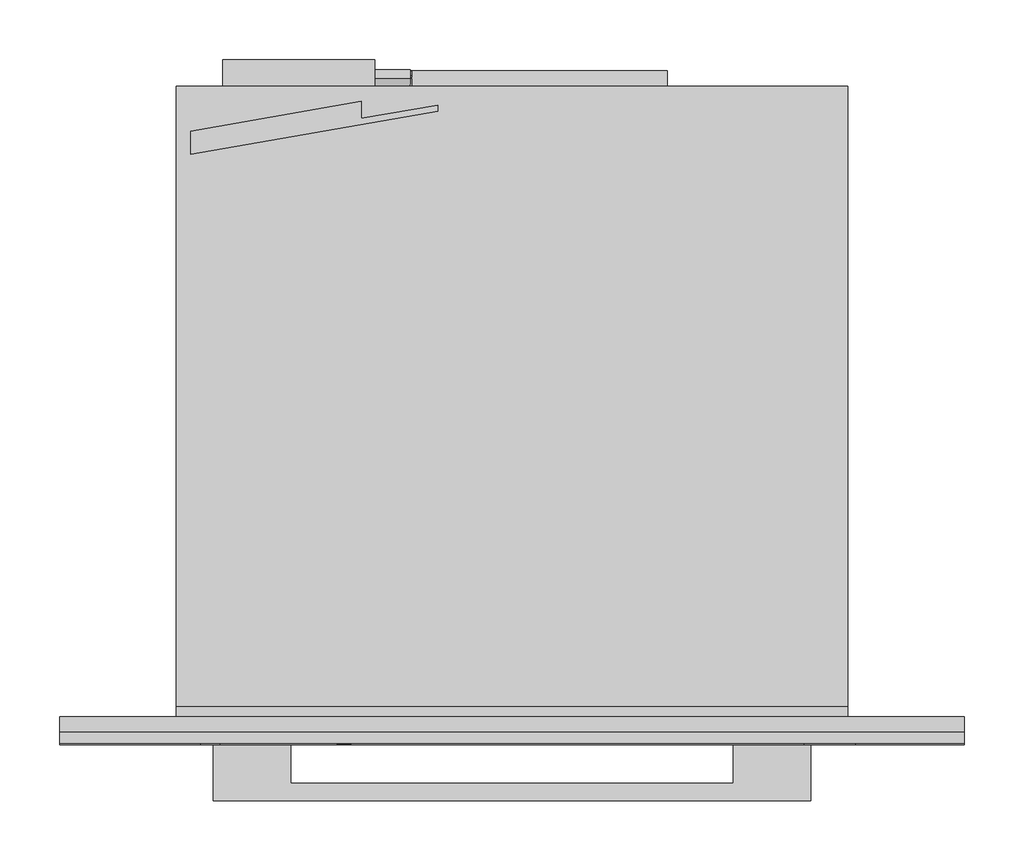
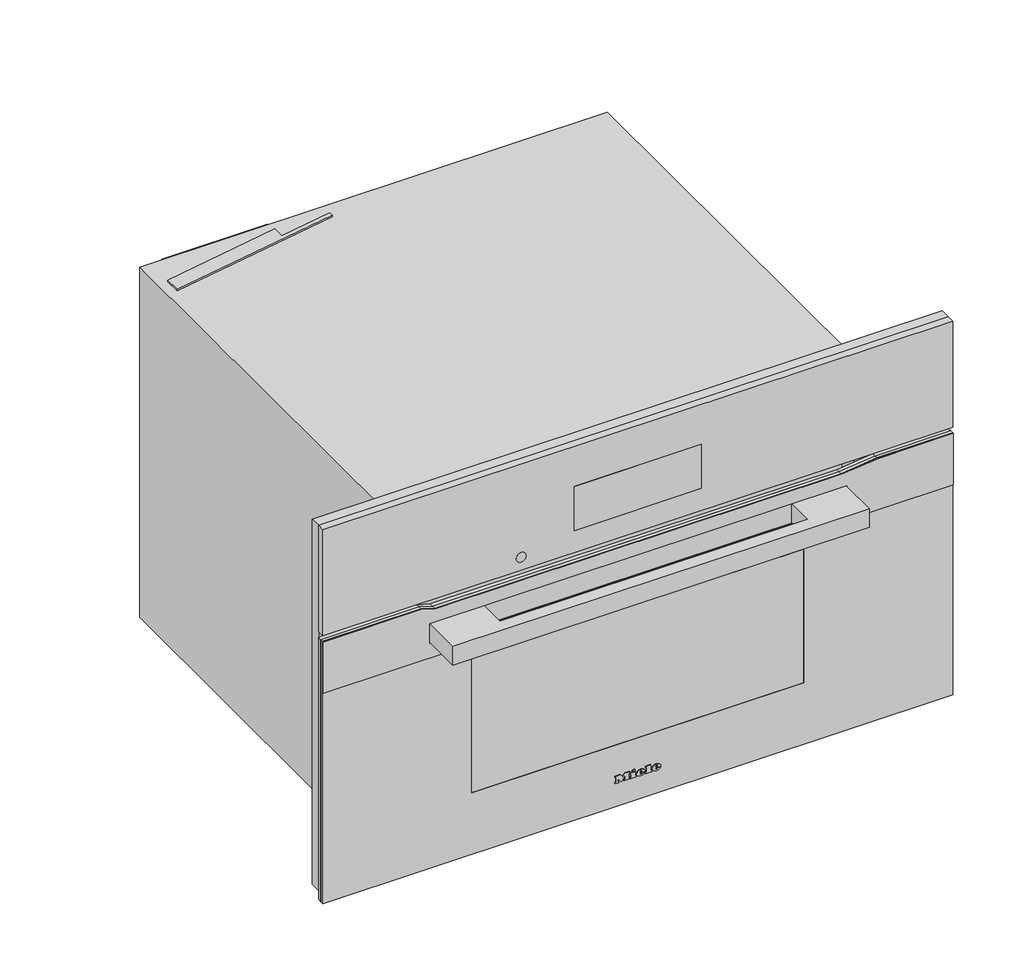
# Not in any storey: 1 proxy.
"""IFC4 building model written with IfcOpenShell, lengths in millimetres."""

import ifcopenshell
import ifcopenshell.guid

model = None  # the IFC model being written
_history = None  # IfcOwnerHistory: only IFC2X3 demands one
_inside = {}  # id of a spatial element -> (the spatial element, [elements in it])
_under = {}  # id of a project, library or spatial element -> (it, [spatial elements below it])
_declared = {}  # id of a project -> (the project, [libraries it declares])
_typed = {}  # id of a type object -> (the type object, [elements of that type])
_made_of = {}  # id of a material, layer set ... -> (it, [elements and type objects made of it])


def new_model(schema):
    """Start an empty IFC model of exactly this schema.

    Asked for "IFC4X3", IfcOpenShell would pick the latest addendum, in which some entities
    have other attributes; the version numbers below select the first issue.
    IFC2X3 requires an IfcOwnerHistory on every rooted entity: one is made here for all.
    """
    global model, _history
    if schema == "IFC4X3":
        model = ifcopenshell.file(schema_version=(4, 3, 0, 0))
    else:
        model = ifcopenshell.file(schema=schema)
    _inside.clear()
    _under.clear()
    _declared.clear()
    _typed.clear()
    _made_of.clear()
    _history = None
    if model.schema == "IFC2X3":
        org = make("IfcOrganization", Name="unknown")
        user = make(
            "IfcPersonAndOrganization",
            ThePerson=make("IfcPerson", FamilyName="unknown"),
            TheOrganization=org,
        )
        app = make(
            "IfcApplication",
            ApplicationDeveloper=org,
            Version="unknown",
            ApplicationFullName="unknown",
            ApplicationIdentifier="unknown",
        )
        _history = make(
            "IfcOwnerHistory",
            OwningUser=user,
            OwningApplication=app,
            ChangeAction="ADDED",
            CreationDate=0,
        )
    return model


def make(cls, **values):
    """One entity of the class cls with the attributes given. An attribute that is None is left unset."""
    return model.create_entity(
        cls, **{name: value for name, value in values.items() if value is not None}
    )


def rooted(cls, **values):
    """An entity with a GlobalId (a new one), such as an element, a storey or a relation."""
    return make(cls, GlobalId=ifcopenshell.guid.new(), OwnerHistory=_history, **values)


def si_unit(unit_type, name, prefix=None):
    """IfcSIUnit, for example si_unit("LENGTHUNIT", "METRE", prefix="MILLI")."""
    return make("IfcSIUnit", UnitType=unit_type, Prefix=prefix, Name=name)


def assignment(units):
    """IfcUnitAssignment: the units of a project."""
    return None if units is None else make("IfcUnitAssignment", Units=units)


def point(xyz):
    """IfcCartesianPoint."""
    return None if xyz is None else make("IfcCartesianPoint", Coordinates=xyz)


def direction(xyz):
    """IfcDirection."""
    return None if xyz is None else make("IfcDirection", DirectionRatios=xyz)


def frame(location, z_axis=None, x_axis=None):
    """IfcAxis2Placement3D, a coordinate frame: its origin and axes. An axis left out is left unset."""
    return make(
        "IfcAxis2Placement3D",
        Location=point(location),
        Axis=direction(z_axis),
        RefDirection=direction(x_axis),
    )


def frame_2d(location, x_axis=None):
    """IfcAxis2Placement2D, a coordinate frame in the plane: its origin and x axis."""
    return make(
        "IfcAxis2Placement2D", Location=point(location), RefDirection=direction(x_axis)
    )


def origin():
    """The frame at (0, 0, 0) with its axes left unset."""
    return frame((0.0, 0.0, 0.0))


def place(relative_to, where):
    """IfcLocalPlacement: puts the frame where relative to a parent placement (None: the world)."""
    return make(
        "IfcLocalPlacement", PlacementRelTo=relative_to, RelativePlacement=where
    )


def context(
    kind, dimensions, precision=None, world=None, true_north=None, identifier=None
):
    """IfcGeometricRepresentationContext, for example the 3D "Model" context."""
    return make(
        "IfcGeometricRepresentationContext",
        ContextIdentifier=identifier,
        ContextType=kind,
        CoordinateSpaceDimension=dimensions,
        Precision=precision,
        WorldCoordinateSystem=world,
        TrueNorth=true_north,
    )


def project(units=None, contexts=None):
    """IfcProject with its units and contexts."""
    return rooted(
        "IfcProject",
        Name="project",
        RepresentationContexts=contexts,
        UnitsInContext=assignment(units),
    )


def spatial(cls, under=None, at=None, **own):
    """A site, building, storey or space (cls), placed at a placement, below another one or the project."""
    s = rooted(cls, ObjectPlacement=at, **own)
    if under is not None:
        _under.setdefault(under.id(), (under, []))[1].append(s)
    return s


def polyline(points):
    """IfcPolyline through the points."""
    return make("IfcPolyline", Points=[point(p) for p in points])


def circle_curve(where, radius):
    """IfcCircle in the frame where."""
    return make("IfcCircle", Position=where, Radius=radius)


def ellipse_curve(where, semi_axis1, semi_axis2):
    """IfcEllipse in the frame where."""
    return make(
        "IfcEllipse", Position=where, SemiAxis1=semi_axis1, SemiAxis2=semi_axis2
    )


def trimmed(basis, trim1, trim2, sense, master):
    """IfcTrimmedCurve: the piece of a basis curve between two trims."""
    return make(
        "IfcTrimmedCurve",
        BasisCurve=basis,
        Trim1=trim1,
        Trim2=trim2,
        SenseAgreement=sense,
        MasterRepresentation=master,
    )


def segment(curve, same_sense, transition):
    """IfcCompositeCurveSegment."""
    return make(
        "IfcCompositeCurveSegment",
        Transition=transition,
        SameSense=same_sense,
        ParentCurve=curve,
    )


def composite_curve(segments, self_intersect=None):
    """IfcCompositeCurve: segments joined end to end."""
    return make("IfcCompositeCurve", Segments=segments, SelfIntersect=self_intersect)


def outline(outer, holes=None, kind="AREA"):
    """IfcArbitraryClosedProfileDef: a profile drawn as a closed curve; with holes, ...WithVoids."""
    if holes is None:
        return make("IfcArbitraryClosedProfileDef", ProfileType=kind, OuterCurve=outer)
    return make(
        "IfcArbitraryProfileDefWithVoids",
        ProfileType=kind,
        OuterCurve=outer,
        InnerCurves=holes,
    )


def extrude(swept, where, along, depth):
    """IfcExtrudedAreaSolid: the profile swept, set in the frame where, extruded along a direction by depth."""
    return make(
        "IfcExtrudedAreaSolid",
        SweptArea=swept,
        Position=where,
        ExtrudedDirection=direction(along),
        Depth=depth,
    )


def faces_of(points, faces, orient=None, outer=None):
    """IfcFace entities. A face is a list of loops; a loop is a list of indices into points, from 0.

    orient and outer hold one flag for each loop. By default every Orientation is true, the
    first loop of a face is its IfcFaceOuterBound and the others are IfcFaceBound.
    """
    made = []
    for i, loops in enumerate(faces):
        bounds = []
        for j, loop in enumerate(loops):
            is_outer = j == 0 if outer is None else outer[i][j]
            bounds.append(
                make(
                    "IfcFaceOuterBound" if is_outer else "IfcFaceBound",
                    Bound=make("IfcPolyLoop", Polygon=[points[k] for k in loop]),
                    Orientation=True if orient is None else orient[i][j],
                )
            )
        made.append(make("IfcFace", Bounds=bounds))
    return made


def faceted_brep(points, faces, orient=None, outer=None, voids=None):
    """IfcFacetedBrep: a solid bounded by flat faces; with voids (closed shells), ...WithVoids."""
    shared = [point(p) for p in points]
    hull = make("IfcClosedShell", CfsFaces=faces_of(shared, faces, orient, outer))
    if voids is None:
        return make("IfcFacetedBrep", Outer=hull)
    return make(
        "IfcFacetedBrepWithVoids",
        Outer=hull,
        Voids=[
            make(cls, CfsFaces=faces_of(shared, fs, o, b)) for cls, fs, o, b in voids
        ],
    )


def shape(context_of_items, identifier, shape_type, items):
    """IfcShapeRepresentation: the items that make up one representation, for example the "Body"."""
    return make(
        "IfcShapeRepresentation",
        ContextOfItems=context_of_items,
        RepresentationIdentifier=identifier,
        RepresentationType=shape_type,
        Items=items,
    )


def source(mapping_origin, context_of_items, identifier, shape_type, items):
    """IfcRepresentationMap: a shape defined once, which mapped items show again and again."""
    return make(
        "IfcRepresentationMap",
        MappingOrigin=mapping_origin,
        MappedRepresentation=shape(context_of_items, identifier, shape_type, items),
    )


def transform(
    local_origin,
    x_axis=None,
    y_axis=None,
    z_axis=None,
    scale=None,
    scale2=None,
    scale3=None,
    uniform=True,
):
    """IfcCartesianTransformationOperator3D, or its non-uniform kind. x_axis, y_axis, z_axis: its Axis1, 2, 3."""
    if uniform:
        return make(
            "IfcCartesianTransformationOperator3D",
            Axis1=direction(x_axis),
            Axis2=direction(y_axis),
            LocalOrigin=point(local_origin),
            Scale=scale,
            Axis3=direction(z_axis),
        )
    return make(
        "IfcCartesianTransformationOperator3DnonUniform",
        Axis1=direction(x_axis),
        Axis2=direction(y_axis),
        LocalOrigin=point(local_origin),
        Scale=scale,
        Axis3=direction(z_axis),
        Scale2=scale2,
        Scale3=scale3,
    )


def mapped(mapping_source, mapping_target):
    """IfcMappedItem: shows the shape of a source again, moved by a transform."""
    return make(
        "IfcMappedItem", MappingSource=mapping_source, MappingTarget=mapping_target
    )


def made_of(thing, what):
    """Note that an element or type object is made of a material, layer set ...; save() writes the relation."""
    if what is not None:
        _made_of.setdefault(what.id(), (what, []))[1].append(thing)
    return thing


def element(
    cls,
    number,
    at=None,
    inside=None,
    cuts=None,
    type_object=None,
    material=None,
    context=None,
    identifier="Body",
    shape_type=None,
    held_by="IfcProductDefinitionShape",
    body=None,
    shapes=None,
    **own,
):
    """One element of the class cls, such as IfcWall. Its Tag is "e" and its number.

    at: its placement. inside: the storey or other place that contains it. cuts: it is an
    opening in that element (IfcRelVoidsElement). A single representation is given by context,
    identifier, shape_type and body (its items); several are given by shapes. held_by: the class
    of the entity that holds the representations. save() writes the other relations.
    """
    e = rooted(cls, Tag="e%d" % number, ObjectPlacement=at, **own)
    if body is not None:
        shapes = [shape(context, identifier, shape_type, body)]
    if shapes is not None:
        e.Representation = make(held_by, Representations=shapes)
    if inside is not None:
        _inside.setdefault(inside.id(), (inside, []))[1].append(e)
    if cuts is not None:
        rooted(
            "IfcRelVoidsElement", RelatingBuildingElement=cuts, RelatedOpeningElement=e
        )
    if type_object is not None:
        _typed.setdefault(type_object.id(), (type_object, []))[1].append(e)
    return made_of(e, material)


def aggregate(whole, parts):
    """IfcRelAggregates: a whole, such as a stair, and the parts it consists of."""
    return rooted("IfcRelAggregates", RelatingObject=whole, RelatedObjects=parts)


def save(model, path):
    """Write the relations noted so far, then the file.

    IfcRelAggregates (storeys below a building ...), IfcRelContainedInSpatialStructure (elements
    in a storey), IfcRelDefinesByType, IfcRelAssociatesMaterial and IfcRelDeclares: one each for
    every whole, place, type object, material and project.
    """
    for whole, parts in _under.values():
        aggregate(whole, parts)
    for where, things in _inside.values():
        rooted(
            "IfcRelContainedInSpatialStructure",
            RelatedElements=things,
            RelatingStructure=where,
        )
    for kind, things in _typed.values():
        rooted("IfcRelDefinesByType", RelatedObjects=things, RelatingType=kind)
    for what, things in _made_of.values():
        rooted("IfcRelAssociatesMaterial", RelatedObjects=things, RelatingMaterial=what)
    for by, libraries in _declared.values():
        rooted("IfcRelDeclares", RelatingContext=by, RelatedDefinitions=libraries)
    model.write(path)


def plane_surface(at):
    """IfcPlane: the flat surface through the origin of the frame at, square to its z axis."""
    return make("IfcPlane", Position=at)


def cylinder_surface(at, radius):
    """IfcCylindricalSurface: all points at the distance radius from the z axis of the frame at."""
    return make("IfcCylindricalSurface", Position=at, Radius=radius)


def revolved_surface(curve, axis_point, axis_direction):
    """IfcSurfaceOfRevolution: the curve turned about the line through axis_point along axis_direction."""
    return make(
        "IfcSurfaceOfRevolution",
        SweptCurve=make("IfcArbitraryOpenProfileDef", ProfileType="CURVE", Curve=curve),
        AxisPosition=make("IfcAxis1Placement", Location=point(axis_point), Axis=direction(axis_direction)),
    )


def extruded_surface(curve, direction_of_extrusion, depth):
    """IfcSurfaceOfLinearExtrusion: the curve pushed along a direction by depth."""
    return make(
        "IfcSurfaceOfLinearExtrusion",
        SweptCurve=make("IfcArbitraryOpenProfileDef", ProfileType="CURVE", Curve=curve),
        ExtrudedDirection=direction(direction_of_extrusion),
        Depth=depth,
    )


def advanced_brep(points, edges, surfaces, faces):
    """IfcAdvancedBrep: a solid bounded by faces that lie on surfaces and meet in shared edges.

    An edge is (start, end): straight between two places in points (the first is 0);
    or (start, end, curve); or (start, end, curve, False) where it runs against its curve.
    A face is (place in surfaces, loops), or (place, loops, False) where it looks against
    its surface's normal. A loop lists edges by number (the first is 1), with a minus sign
    where the edge is run from its end to its start. The first loop is the outer one.
    """
    corners = [point(p) for p in points]
    vertices = [make("IfcVertexPoint", VertexGeometry=c) for c in corners]
    made = []
    for start, end, *more in edges:
        made.append(
            make(
                "IfcEdgeCurve",
                EdgeStart=vertices[start],
                EdgeEnd=vertices[end],
                EdgeGeometry=more[0] if more else make("IfcPolyline", Points=[corners[start], corners[end]]),
                SameSense=more[1] if len(more) > 1 else True,
            )
        )
    hull = []
    for where, loops, *sense in faces:
        bounds = []
        for j, loop in enumerate(loops):
            ring = [make("IfcOrientedEdge", EdgeElement=made[abs(k) - 1], Orientation=k > 0) for k in loop]
            bounds.append(
                make(
                    "IfcFaceOuterBound" if j == 0 else "IfcFaceBound",
                    Bound=make("IfcEdgeLoop", EdgeList=ring),
                    Orientation=True,
                )
            )
        hull.append(make("IfcAdvancedFace", Bounds=bounds, FaceSurface=surfaces[where], SameSense=sense[0] if sense else True))
    return make("IfcAdvancedBrep", Outer=make("IfcClosedShell", CfsFaces=hull))


def specialty_equipment_5f143a75(model_context):
    return source(origin(), model_context, "Body", "SolidModel", [
        advanced_brep(
        [(21.28, -23.0, 36.133), (21.28, -23.0, 37.042), (27.301, -23.0, 37.042), (16.825, -23.0, 37.042), (19.3, -23.0, 34.0), (27.148, -23.0, 36.133), (24.43, -23.0, 36.133), (22.288, -23.0, 35.125), (21.28, -23.0, 38.194), (21.28, -23.0, 39.175), (22.819, -23.0, 39.175), (22.819, -23.0, 38.194), (21.28, -22.0, 36.133), (22.288, -22.0, 35.125), (24.43, -22.0, 36.133), (27.148, -22.0, 36.133), (19.3, -22.0, 34.0), (16.825, -22.0, 37.042), (27.301, -22.0, 37.042), (21.28, -22.0, 37.042), (21.28, -22.0, 38.194), (22.819, -22.0, 38.194), (22.819, -22.0, 39.175), (21.28, -22.0, 39.175)],
        [
            (0, 1),
            (1, 2),
            (2, 3, ellipse_curve(frame((22.063, -23.0, 37.042), z_axis=(0.0, -1.0, 0.0), x_axis=(-1.0, 0.0, 0.0)), 5.238, 4.329)),
            (3, 4, circle_curve(frame((20.3080491, -23.0, 37.348), z_axis=(0.0, -1.0, 0.0), x_axis=(0.0, 0.0, -1.0)), 3.4964649)),
            (4, 5, circle_curve(frame((21.9581428, -23.0, 39.724), z_axis=(0.0, -1.0, 0.0), x_axis=(0.0, 0.0, -1.0)), 6.3110933)),
            (5, 6),
            (6, 7, circle_curve(frame((22.7279412, -23.0, 36.97), z_axis=(0.0, 1.0, 0.0), x_axis=(0.0, 0.0, -1.0)), 1.896727)),
            (7, 0, circle_curve(frame((22.288, -23.0, 36.133), z_axis=(0.0, 1.0, 0.0), x_axis=(0.0, 0.0, -1.0)), 1.008)),
            (8, 9),
            (9, 10, circle_curve(frame((22.0495, -23.0, 39.175), z_axis=(0.0, 1.0, 0.0), x_axis=(0.0, 0.0, -1.0)), 0.7695)),
            (10, 11),
            (11, 8),
            (12, 13, circle_curve(frame((22.288, -22.0, 36.133), z_axis=(0.0, -1.0, 0.0), x_axis=(0.0, 0.0, -1.0)), 1.008)),
            (13, 14, circle_curve(frame((22.7279412, -22.0, 36.97), z_axis=(0.0, -1.0, 0.0), x_axis=(0.0, 0.0, -1.0)), 1.896727)),
            (14, 15),
            (15, 16, circle_curve(frame((21.9581428, -22.0, 39.724), z_axis=(0.0, 1.0, 0.0), x_axis=(0.0, 0.0, -1.0)), 6.3110933)),
            (16, 17, circle_curve(frame((20.3080491, -22.0, 37.348), z_axis=(0.0, 1.0, 0.0), x_axis=(0.0, 0.0, -1.0)), 3.4964649)),
            (17, 18, ellipse_curve(frame((22.063, -22.0, 37.042), z_axis=(0.0, 1.0, 0.0), x_axis=(-1.0, 0.0, 0.0)), 5.238, 4.329)),
            (18, 19),
            (19, 12),
            (20, 21),
            (21, 22),
            (22, 23, circle_curve(frame((22.0495, -22.0, 39.175), z_axis=(0.0, -1.0, 0.0), x_axis=(0.0, 0.0, -1.0)), 0.7695)),
            (23, 20),
            (0, 12),
            (19, 1),
            (18, 2),
            (5, 15),
            (14, 6),
            (17, 3),
            (13, 7),
            (16, 4),
            (8, 20),
            (23, 9),
            (22, 10),
            (21, 11),
        ],
        [
            plane_surface(frame((21.28, -23.0, 37.042), z_axis=(0.0, -1.0, 0.0), x_axis=(0.0, 0.0, 1.0))),
            plane_surface(frame((21.28, -22.0, 37.042), z_axis=(0.0, 1.0, 0.0), x_axis=(0.0, 0.0, -1.0))),
            plane_surface(frame((21.28, -23.0, 36.133), z_axis=(1.0, 0.0, 0.0), x_axis=(0.0, 1.0, 0.0))),
            plane_surface(frame((21.28, -23.0, 37.042), z_axis=(0.0, 0.0, -1.0), x_axis=(0.0, 1.0, 0.0))),
            plane_surface(frame((27.148, -23.0, 36.133), z_axis=(0.0, 0.0, 1.0), x_axis=(0.0, 1.0, 0.0))),
            extruded_surface(trimmed(ellipse_curve(frame((22.063, -21.0, 37.042), z_axis=(0.0, -1.0, 0.0), x_axis=(-1.0, 0.0, 0.0)), 5.238, 4.329), [point((27.301, -21.0, 37.042))], [point((16.825, -21.0, 37.042))], True, "CARTESIAN"), (0.0, -1.0, 0.0), 1.0),
            revolved_surface(polyline([(22.7279412, -22.0, 35.073273), (22.7279412, -23.0, 35.073273)]), (22.7279412, -22.0, 36.97), (0.0, 1.0, 0.0)),
            revolved_surface(polyline([(22.288, -22.0, 35.125), (22.288, -23.0, 35.125)]), (22.288, -22.0, 36.133), (0.0, 1.0, 0.0)),
            cylinder_surface(frame((20.3080491, -22.0, 37.348), z_axis=(0.0, -1.0, 0.0), x_axis=(0.0, 0.0, -1.0)), 3.4964649),
            cylinder_surface(frame((21.9581428, -22.0, 39.724), z_axis=(0.0, -1.0, 0.0), x_axis=(0.0, 0.0, -1.0)), 6.3110933),
            plane_surface(frame((21.28, -23.0, 38.194), z_axis=(1.0, 0.0, 0.0), x_axis=(0.0, 1.0, 0.0))),
            revolved_surface(polyline([(22.0495, -22.0, 38.405499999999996), (22.0495, -23.0, 38.405499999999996)]), (22.0495, -22.0, 39.175), (0.0, 1.0, 0.0)),
            plane_surface(frame((22.819, -23.0, 39.175), z_axis=(-1.0, 0.0, 0.0), x_axis=(0.0, 1.0, 0.0))),
            plane_surface(frame((22.819, -23.0, 38.194), z_axis=(0.0, 0.0, 1.0), x_axis=(0.0, 1.0, 0.0))),
        ],
        [
            (0, [[1, 2, 3, 4, 5, 6, 7, 8], [9, 10, 11, 12]]),
            (1, [[13, 14, 15, 16, 17, 18, 19, 20], [21, 22, 23, 24]]),
            (2, [[-1, 25, -20, 26]]),
            (3, [[-2, -26, -19, 27]]),
            (4, [[-6, 28, -15, 29]]),
            (5, [[-3, -27, -18, 30]]),
            (6, [[-7, -29, -14, 31]]),
            (7, [[-8, -31, -13, -25]]),
            (8, [[-4, -30, -17, 32]]),
            (9, [[-5, -32, -16, -28]]),
            (10, [[-9, 33, -24, 34]]),
            (11, [[-10, -34, -23, 35]]),
            (12, [[-11, -35, -22, 36]]),
            (13, [[-12, -36, -21, -33]]),
        ],
    ),
        advanced_brep(
        [(2.497, -23.0, 36.133), (2.497, -23.0, 37.042), (8.518, -23.0, 37.042), (-1.958, -23.0, 37.042), (0.517, -23.0, 34.0), (8.365, -23.0, 36.133), (5.647, -23.0, 36.133), (3.505, -23.0, 35.125), (2.497, -23.0, 38.194), (2.497, -23.0, 39.175), (4.036, -23.0, 39.175), (4.036, -23.0, 38.194), (2.497, -22.0, 36.133), (3.505, -22.0, 35.125), (5.647, -22.0, 36.133), (8.365, -22.0, 36.133), (0.517, -22.0, 34.0), (-1.958, -22.0, 37.042), (8.518, -22.0, 37.042), (2.497, -22.0, 37.042), (2.497, -22.0, 38.194), (4.036, -22.0, 38.194), (4.036, -22.0, 39.175), (2.497, -22.0, 39.175)],
        [
            (0, 1),
            (1, 2),
            (2, 3, ellipse_curve(frame((3.28, -23.0, 37.042), z_axis=(0.0, -1.0, 0.0), x_axis=(-1.0, 0.0, 0.0)), 5.238, 4.329)),
            (3, 4, circle_curve(frame((1.5250491, -23.0, 37.348), z_axis=(0.0, -1.0, 0.0), x_axis=(0.0, 0.0, -1.0)), 3.4964649)),
            (4, 5, circle_curve(frame((3.1751428, -23.0, 39.724), z_axis=(0.0, -1.0, 0.0), x_axis=(0.0, 0.0, -1.0)), 6.3110933)),
            (5, 6),
            (6, 7, circle_curve(frame((3.9449412, -23.0, 36.97), z_axis=(0.0, 1.0, 0.0), x_axis=(0.0, 0.0, -1.0)), 1.896727)),
            (7, 0, circle_curve(frame((3.505, -23.0, 36.133), z_axis=(0.0, 1.0, 0.0), x_axis=(0.0, 0.0, -1.0)), 1.008)),
            (8, 9),
            (9, 10, circle_curve(frame((3.2665, -23.0, 39.175), z_axis=(0.0, 1.0, 0.0), x_axis=(0.0, 0.0, -1.0)), 0.7695)),
            (10, 11),
            (11, 8),
            (12, 13, circle_curve(frame((3.505, -22.0, 36.133), z_axis=(0.0, -1.0, 0.0), x_axis=(0.0, 0.0, -1.0)), 1.008)),
            (13, 14, circle_curve(frame((3.9449412, -22.0, 36.97), z_axis=(0.0, -1.0, 0.0), x_axis=(0.0, 0.0, -1.0)), 1.896727)),
            (14, 15),
            (15, 16, circle_curve(frame((3.1751428, -22.0, 39.724), z_axis=(0.0, 1.0, 0.0), x_axis=(0.0, 0.0, -1.0)), 6.3110933)),
            (16, 17, circle_curve(frame((1.5250491, -22.0, 37.348), z_axis=(0.0, 1.0, 0.0), x_axis=(0.0, 0.0, -1.0)), 3.4964649)),
            (17, 18, ellipse_curve(frame((3.28, -22.0, 37.042), z_axis=(0.0, 1.0, 0.0), x_axis=(-1.0, 0.0, 0.0)), 5.238, 4.329)),
            (18, 19),
            (19, 12),
            (20, 21),
            (21, 22),
            (22, 23, circle_curve(frame((3.2665, -22.0, 39.175), z_axis=(0.0, -1.0, 0.0), x_axis=(0.0, 0.0, -1.0)), 0.7695)),
            (23, 20),
            (0, 12),
            (19, 1),
            (18, 2),
            (5, 15),
            (14, 6),
            (17, 3),
            (13, 7),
            (16, 4),
            (8, 20),
            (23, 9),
            (22, 10),
            (21, 11),
        ],
        [
            plane_surface(frame((2.497, -23.0, 37.042), z_axis=(0.0, -1.0, 0.0), x_axis=(0.0, 0.0, 1.0))),
            plane_surface(frame((2.497, -22.0, 37.042), z_axis=(0.0, 1.0, 0.0), x_axis=(0.0, 0.0, -1.0))),
            plane_surface(frame((2.497, -23.0, 36.133), z_axis=(1.0, 0.0, 0.0), x_axis=(0.0, 1.0, 0.0))),
            plane_surface(frame((2.497, -23.0, 37.042), z_axis=(0.0, 0.0, -1.0), x_axis=(0.0, 1.0, 0.0))),
            plane_surface(frame((8.365, -23.0, 36.133), z_axis=(0.0, 0.0, 1.0), x_axis=(0.0, 1.0, 0.0))),
            extruded_surface(trimmed(ellipse_curve(frame((3.28, -21.0, 37.042), z_axis=(0.0, -1.0, 0.0), x_axis=(-1.0, 0.0, 0.0)), 5.238, 4.329), [point((8.518, -21.0, 37.042))], [point((-1.958, -21.0, 37.042))], True, "CARTESIAN"), (0.0, -1.0, 0.0), 1.0),
            revolved_surface(polyline([(3.9449412, -22.0, 35.073273), (3.9449412, -23.0, 35.073273)]), (3.9449412, -22.0, 36.97), (0.0, 1.0, 0.0)),
            revolved_surface(polyline([(3.505, -22.0, 35.125), (3.505, -23.0, 35.125)]), (3.505, -22.0, 36.133), (0.0, 1.0, 0.0)),
            cylinder_surface(frame((1.5250491, -22.0, 37.348), z_axis=(0.0, -1.0, 0.0), x_axis=(0.0, 0.0, -1.0)), 3.4964649),
            cylinder_surface(frame((3.1751428, -22.0, 39.724), z_axis=(0.0, -1.0, 0.0), x_axis=(0.0, 0.0, -1.0)), 6.3110933),
            plane_surface(frame((2.497, -23.0, 38.194), z_axis=(1.0, 0.0, 0.0), x_axis=(0.0, 1.0, 0.0))),
            revolved_surface(polyline([(3.2665, -22.0, 38.405499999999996), (3.2665, -23.0, 38.405499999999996)]), (3.2665, -22.0, 39.175), (0.0, 1.0, 0.0)),
            plane_surface(frame((4.036, -23.0, 39.175), z_axis=(-1.0, 0.0, 0.0), x_axis=(0.0, 1.0, 0.0))),
            plane_surface(frame((4.036, -23.0, 38.194), z_axis=(0.0, 0.0, 1.0), x_axis=(0.0, 1.0, 0.0))),
        ],
        [
            (0, [[1, 2, 3, 4, 5, 6, 7, 8], [9, 10, 11, 12]]),
            (1, [[13, 14, 15, 16, 17, 18, 19, 20], [21, 22, 23, 24]]),
            (2, [[-1, 25, -20, 26]]),
            (3, [[-2, -26, -19, 27]]),
            (4, [[-6, 28, -15, 29]]),
            (5, [[-3, -27, -18, 30]]),
            (6, [[-7, -29, -14, 31]]),
            (7, [[-8, -31, -13, -25]]),
            (8, [[-4, -30, -17, 32]]),
            (9, [[-5, -32, -16, -28]]),
            (10, [[-9, 33, -24, 34]]),
            (11, [[-10, -34, -23, 35]]),
            (12, [[-11, -35, -22, 36]]),
            (13, [[-12, -36, -21, -33]]),
        ],
    ),
        extrude(outline(polyline([(42.469, -7.34), (41.011, -6.656), (42.433, -3.605), (43.891, -4.28), (42.469, -7.34)])), frame((0.0, -23.0, 0.0), z_axis=(0.0, 1.0, 0.0), x_axis=(0.0, 0.0, 1.0)), (0.0, 0.0, 1.0), 1.0),
        extrude(outline(polyline([(40.813, -9.563), (39.202, -9.563), (39.202, -8.492), (35.512, -8.492), (35.512, -9.563), (34.0, -9.563), (34.0, -2.462), (35.512, -2.462), (35.512, -3.506), (40.813, -3.506), (40.813, -9.563)])), frame((0.0, -23.0, 0.0), z_axis=(0.0, 1.0, 0.0), x_axis=(0.0, 0.0, 1.0)), (0.0, 0.0, 1.0), 1.0),
        extrude(outline(polyline([(41.533, 9.022), (41.533, 10.102), (35.512, 10.102), (35.512, 9.022), (34.0, 9.022), (34.0, 16.321), (35.512, 16.321), (35.512, 15.214), (43.0, 15.214), (43.0, 9.022), (41.533, 9.022)])), frame((0.0, -23.0, 0.0), z_axis=(0.0, 1.0, 0.0), x_axis=(0.0, 0.0, 1.0)), (0.0, 0.0, 1.0), 1.0),
        extrude(outline(polyline([(41.533, -27.5), (41.533, -26.411), (35.512, -26.411), (35.512, -27.5), (34.0, -27.5), (34.0, -23.54), (35.512, -23.54), (35.512, -24.62), (39.3341247, -24.62), (34.0, -20.597), (39.4402223, -16.556), (35.512, -16.556), (35.512, -17.663), (34.0, -17.663), (34.0, -10.481), (35.512, -10.481), (35.512, -11.624), (41.533, -11.624), (41.533, -10.481), (43.0, -10.481), (43.0, -15.962), (39.625, -18.59), (43.0, -21.227), (43.0, -27.5), (41.533, -27.5)])), frame((0.0, -23.0, 0.0), z_axis=(0.0, 1.0, 0.0), x_axis=(0.0, 0.0, 1.0)), (0.0, 0.0, 1.0), 1.0),
        extrude(outline(polyline([(-250.0, -70.3), (-250.0, -22.0), (-185.0, -22.0), (-185.0, -55.3), (185.0, -55.3), (185.0, -22.0), (250.0, -22.0), (250.0, -70.3), (-250.0, -70.3)])), frame((0.0, 0.0, 291.0), z_axis=(0.0, 0.0, 1.0), x_axis=(1.0, 0.0, 0.0)), (0.0, 0.0, 1.0), 24.0),
        extrude(outline(polyline([(337.0, -378.5), (4.0, -378.5), (4.0, 378.5), (337.0, 378.5), (337.0, 287.3542631), (332.0, 244.0), (332.0, -244.0), (337.0, -260.3542631), (337.0, -378.5)]), holes=[polyline([(252.0, 199.5), (82.0, 199.5), (82.0, -199.5), (252.0, -199.5), (252.0, 199.5)])]), frame((0.0, -22.0, 0.0), z_axis=(0.0, 1.0, 0.0), x_axis=(0.0, 0.0, 1.0)), (0.0, 0.0, 1.0), 4.0),
        extrude(outline(polyline([(337.0, -378.5), (272.0, -378.5), (272.0, 378.5), (337.0, 378.5), (337.0, 287.3542631), (332.0, 244.0), (332.0, -244.0), (337.0, -260.3542631), (337.0, -378.5)]), holes=[polyline([(315.5, -250.5), (315.5, 250.5), (290.5, 250.5), (290.5, -250.5), (315.5, -250.5)])]), frame((0.0, -23.3, 0.0), z_axis=(0.0, 1.0, 0.0), x_axis=(0.0, 0.0, 1.0)), (0.0, 0.0, 1.0), 1.3),
        extrude(outline(polyline([(337.0, -378.5), (4.0, -378.5), (4.0, 378.5), (337.0, 378.5), (337.0, 287.3542631), (332.0, 244.0), (332.0, -244.0), (337.0, -260.3542631), (337.0, -378.5)])), frame((0.0, -18.0, 0.0), z_axis=(0.0, 1.0, 0.0), x_axis=(0.0, 0.0, 1.0)), (0.0, 0.0, 1.0), 5.0),
        extrude(outline(polyline([(-199.5, -18.0), (199.5, -18.0), (199.5, -22.0), (-199.5, -22.0), (-199.5, -18.0)])), frame((0.0, 0.0, 82.0), z_axis=(0.0, 0.0, 1.0), x_axis=(1.0, 0.0, 0.0)), (0.0, 0.0, 1.0), 170.0),
        extrude(outline(polyline([(-76.5, -21.0), (76.5, -21.0), (76.5, -22.0), (-76.5, -22.0), (-76.5, -21.0)])), frame((0.0, 0.0, 372.0), z_axis=(0.0, 0.0, 1.0), x_axis=(1.0, 0.0, 0.0)), (0.0, 0.0, 1.0), 56.0),
        faceted_brep([(378.5, -22.0, 479.0), (-378.5, -22.0, 479.0), (-378.5, -22.0, 344.0), (378.5, -22.0, 344.0), (76.5, -22.0, 428.0), (76.5, -22.0, 372.0), (-76.5, -22.0, 372.0), (-76.5, -22.0, 428.0), (378.5, -13.0, 479.0), (378.5, -13.0, 344.0), (-378.5, -13.0, 344.0), (-378.5, -13.0, 479.0), (76.5, -21.0, 428.0), (-76.5, -21.0, 428.0), (-76.5, -21.0, 372.0), (76.5, -21.0, 372.0)], [[[0, 1, 2, 3], [4, 5, 6, 7]], [[8, 9, 10, 11]], [[1, 0, 8, 11]], [[2, 1, 11, 10]], [[3, 2, 10, 9]], [[0, 3, 9, 8]], [[12, 13, 14, 15]], [[12, 15, 5, 4]], [[15, 14, 6, 5]], [[14, 13, 7, 6]], [[13, 12, 4, 7]]]),
        extrude(outline(composite_curve([segment(trimmed(circle_curve(frame_2d((361.0, -140.5745637)), 6.0), [point((361.0, -146.5745637))], [point((361.0, -134.5745637))], False, "CARTESIAN"), True, "CONTINUOUS"), segment(trimmed(circle_curve(frame_2d((361.0, -140.5745637)), 6.0), [point((361.0, -134.5745637))], [point((361.0, -146.5745637))], False, "CARTESIAN"), True, "CONTINUOUS")], self_intersect=False)), frame((0.0, -22.5, 0.0), z_axis=(0.0, 1.0, 0.0), x_axis=(0.0, 0.0, 1.0)), (0.0, 0.0, 1.0), 1.0),
        extrude(outline(polyline([(-269.0, 490.2851942), (-126.0, 515.1547594), (-126.0, 500.9446163), (-62.0, 512.0750511), (-62.0, 507.0), (-269.0, 471.0), (-269.0, 490.2851942)])), frame((0.0, 0.0, 445.0), z_axis=(0.0, 0.0, 1.0), x_axis=(1.0, 0.0, 0.0)), (0.0, 0.0, 1.0), 2.0),
        extrude(outline(polyline([(528.134837, 358.3256163), (533.9911721, 358.3256163), (533.9911721, 357.3256163), (529.134837, 357.3256163), (529.134837, 353.8256163), (532.0849866, 353.8256163), (532.0849866, 352.8256163), (529.134837, 352.8256163), (529.134837, 349.3256163), (533.9911721, 349.3256163), (533.9911721, 348.3256163), (528.134837, 348.3256163), (528.134837, 358.3256163)])), frame((-85.0, 0.0, 0.0), z_axis=(1.0, 0.0, 0.0), x_axis=(0.0, 1.0, 0.0)), (0.0, 0.0, 1.0), 1.0),
        extrude(outline(polyline([(535.4911721, 348.3256163), (535.4911721, 358.3256163), (536.5959622, 358.3256163), (536.5959622, 349.3256163), (540.4911721, 349.3256163), (540.4911721, 348.3256163), (535.4911721, 348.3256163)])), frame((-85.0, 0.0, 0.0), z_axis=(1.0, 0.0, 0.0), x_axis=(0.0, 1.0, 0.0)), (0.0, 0.0, 1.0), 1.0),
        extrude(outline(composite_curve([segment(trimmed(circle_curve(frame_2d((534.0, 353.0)), 7.5), [point((534.0, 345.5))], [point((534.0, 360.5))], False, "CARTESIAN"), True, "CONTINUOUS"), segment(trimmed(circle_curve(frame_2d((534.0, 353.0)), 7.5), [point((534.0, 360.5))], [point((534.0, 345.5))], False, "CARTESIAN"), True, "CONTINUOUS")], self_intersect=False)), frame((-115.0, 0.0, 0.0), z_axis=(1.0, 0.0, 0.0), x_axis=(0.0, 1.0, 0.0)), (0.0, 0.0, 1.0), 30.0),
        extrude(outline(polyline([(-115.0, 528.0), (-242.0, 528.0), (-242.0, 550.0), (-115.0, 550.0), (-115.0, 528.0)])), frame((0.0, 0.0, 325.0), z_axis=(0.0, 0.0, 1.0), x_axis=(1.0, 0.0, 0.0)), (0.0, 0.0, 1.0), 103.0),
        faceted_brep([(272.5, 25.0, 344.0), (-272.5, 25.0, 344.0), (-272.5, 25.0, 15.0), (272.5, 25.0, 15.0), (-235.0, 25.0, 270.0), (235.0, 25.0, 270.0), (235.0, 25.0, 60.0), (-235.0, 25.0, 60.0), (272.5, 0.0, 344.0), (-272.5, 0.0, 344.0), (-272.5, 0.0, 15.0), (272.5, 0.0, 15.0), (281.0, 0.0, 0.0), (281.0, 528.0, 0.0), (281.0, 528.0, 445.0), (281.0, 9.0, 445.0), (281.0, 9.0, 440.0), (281.0, 0.0, 440.0), (-281.0, 9.0, 445.0), (-281.0, 528.0, 445.0), (-281.0, 528.0, 0.0), (-281.0, 0.0, 0.0), (-281.0, 0.0, 440.0), (-281.0, 9.0, 440.0), (235.0, 433.0, 270.0), (-235.0, 433.0, 270.0), (-235.0, 433.0, 60.0), (235.0, 433.0, 60.0)], [[[0, 1, 2, 3], [4, 5, 6, 7]], [[1, 0, 8, 9]], [[2, 1, 9, 10]], [[0, 3, 11, 8]], [[12, 13, 14, 15, 16, 17]], [[18, 19, 20, 21, 22, 23]], [[13, 12, 21, 20]], [[14, 13, 20, 19]], [[15, 14, 19, 18]], [[21, 12, 17, 22], [9, 8, 11, 10]], [[24, 25, 26, 27]], [[25, 24, 5, 4]], [[26, 25, 4, 7]], [[27, 26, 7, 6]], [[24, 27, 6, 5]], [[3, 2, 10, 11]], [[16, 23, 22, 17]], [[23, 16, 15, 18]]]),
        extrude(outline(polyline([(130.0, 528.0), (-130.0, 528.0), (-130.0, 541.0), (130.0, 541.0), (130.0, 528.0)])), frame((0.0, 0.0, 36.0), z_axis=(0.0, 0.0, 1.0), x_axis=(1.0, 0.0, 0.0)), (0.0, 0.0, 1.0), 260.0),
        extrude(outline(polyline([(15.0, 378.5), (479.0, 378.5), (479.0, -378.5), (15.0, -378.5), (15.0, -272.5), (344.0, -272.5), (344.0, 272.5), (15.0, 272.5), (15.0, 378.5)])), frame((0.0, -13.0, 0.0), z_axis=(0.0, 1.0, 0.0), x_axis=(0.0, 0.0, 1.0)), (0.0, 0.0, 1.0), 13.0),
    ])


model = new_model("IFC4")

# Units and contexts
model_context = context("Model", 3, world=origin())
ifc_project = project(units=[si_unit("LENGTHUNIT", "METRE", prefix="MILLI")], contexts=[model_context])

# Site, building
site = spatial("IfcSite", under=ifc_project)
building = spatial("IfcBuilding", under=site)

# Proxy
placement = place(None, origin())
specialty_equipment_shape = specialty_equipment_5f143a75(model_context)
element("IfcBuildingElementProxy", 1, Name="11804680_USA_H7870BM_EDST-CLST : 22787046_USA_11804680_H7870BM_EDST-CLST", ObjectType="11804680_USA_H7870BM_EDST-CLST : 22787046_USA_11804680_H7870BM_EDST-CLST", at=placement, inside=building, context=model_context, shape_type="MappedRepresentation", body=[
    mapped(specialty_equipment_shape, transform((0.0, 0.0, 0.0), x_axis=(1.0, 0.0, 0.0), y_axis=(0.0, 1.0, 0.0), z_axis=(0.0, 0.0, 1.0))),
])

save(model, "model.ifc")
